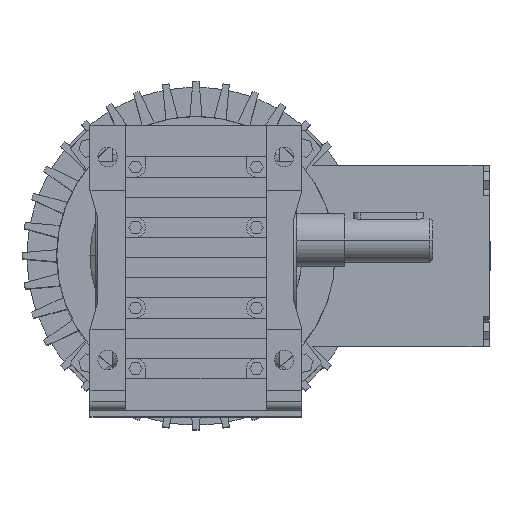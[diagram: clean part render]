
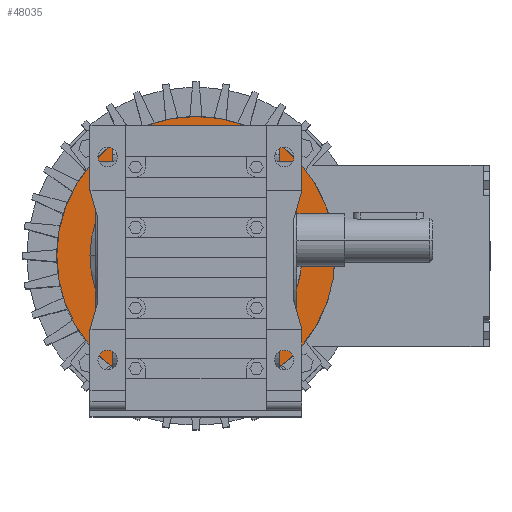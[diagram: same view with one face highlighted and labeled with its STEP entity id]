
A CAD part, top view. The second image highlights one B-rep face of the part: STEP entity #48035.
In plain terms, the highlighted planar face has unit normal (0, 0, 1).
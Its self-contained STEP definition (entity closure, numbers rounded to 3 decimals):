
#35632 = CYLINDRICAL_SURFACE('',#35633,78.8);
#35633 = AXIS2_PLACEMENT_3D('',#35634,#35635,#35636);
#35634 = CARTESIAN_POINT('',(0.,0.,0.));
#35635 = DIRECTION('',(0.,0.,1.));
#35636 = DIRECTION('',(1.,0.,0.));
#35664 = CYLINDRICAL_SURFACE('',#35665,78.8);
#35665 = AXIS2_PLACEMENT_3D('',#35666,#35667,#35668);
#35666 = CARTESIAN_POINT('',(0.,0.,0.));
#35667 = DIRECTION('',(0.,0.,1.));
#35668 = DIRECTION('',(1.,0.,0.));
#39775 = VERTEX_POINT('',#39776);
#39776 = CARTESIAN_POINT('',(-78.8,0.,-32.84));
#39795 = EDGE_CURVE('',#39796,#39775,#39798,.T.);
#39796 = VERTEX_POINT('',#39797);
#39797 = CARTESIAN_POINT('',(78.8,0.,-32.84));
#39798 = SURFACE_CURVE('',#39799,(#39804,#39810),.PCURVE_S1.);
#39799 = CIRCLE('',#39800,78.8);
#39800 = AXIS2_PLACEMENT_3D('',#39801,#39802,#39803);
#39801 = CARTESIAN_POINT('',(0.,0.,-32.84));
#39802 = DIRECTION('',(0.,0.,1.));
#39803 = DIRECTION('',(1.,0.,0.));
#39804 = PCURVE('',#35632,#39805);
#39805 = DEFINITIONAL_REPRESENTATION('',(#39806),#39809);
#39806 = B_SPLINE_CURVE_WITH_KNOTS('',1,(#39807,#39808),.UNSPECIFIED.,
  .F.,.F.,(2,2),(0.,3.142),.PIECEWISE_BEZIER_KNOTS.);
#39807 = CARTESIAN_POINT('',(0.,-32.84));
#39808 = CARTESIAN_POINT('',(3.142,-32.84));
#39809 = ( GEOMETRIC_REPRESENTATION_CONTEXT(2) 
PARAMETRIC_REPRESENTATION_CONTEXT() REPRESENTATION_CONTEXT('2D SPACE',''
  ) );
#39810 = PCURVE('',#39811,#39816);
#39811 = PLANE('',#39812);
#39812 = AXIS2_PLACEMENT_3D('',#39813,#39814,#39815);
#39813 = CARTESIAN_POINT('',(0.,41.863,-32.84));
#39814 = DIRECTION('',(0.,0.,-1.));
#39815 = DIRECTION('',(-1.,0.,0.));
#39816 = DEFINITIONAL_REPRESENTATION('',(#39817),#39825);
#39817 = ( BOUNDED_CURVE() B_SPLINE_CURVE(2,(#39818,#39819,#39820,#39821
    ,#39822,#39823,#39824),.UNSPECIFIED.,.F.,.F.) 
B_SPLINE_CURVE_WITH_KNOTS((1,2,2,2,2,1),(-2.094,0.,
    2.094,4.189,6.283,8.378),
.UNSPECIFIED.) CURVE() GEOMETRIC_REPRESENTATION_ITEM() 
RATIONAL_B_SPLINE_CURVE((1.,0.5,1.,0.5,1.,0.5,1.)) REPRESENTATION_ITEM(
  '') );
#39818 = CARTESIAN_POINT('',(-78.8,-41.863));
#39819 = CARTESIAN_POINT('',(-78.8,94.623));
#39820 = CARTESIAN_POINT('',(39.4,26.38));
#39821 = CARTESIAN_POINT('',(157.6,-41.863));
#39822 = CARTESIAN_POINT('',(39.4,-110.105));
#39823 = CARTESIAN_POINT('',(-78.8,-178.348));
#39824 = CARTESIAN_POINT('',(-78.8,-41.863));
#39825 = ( GEOMETRIC_REPRESENTATION_CONTEXT(2) 
PARAMETRIC_REPRESENTATION_CONTEXT() REPRESENTATION_CONTEXT('2D SPACE',''
  ) );
#43270 = EDGE_CURVE('',#39775,#39796,#43271,.T.);
#43271 = SURFACE_CURVE('',#43272,(#43277,#43283),.PCURVE_S1.);
#43272 = CIRCLE('',#43273,78.8);
#43273 = AXIS2_PLACEMENT_3D('',#43274,#43275,#43276);
#43274 = CARTESIAN_POINT('',(0.,0.,-32.84));
#43275 = DIRECTION('',(0.,0.,1.));
#43276 = DIRECTION('',(1.,0.,0.));
#43277 = PCURVE('',#35664,#43278);
#43278 = DEFINITIONAL_REPRESENTATION('',(#43279),#43282);
#43279 = B_SPLINE_CURVE_WITH_KNOTS('',1,(#43280,#43281),.UNSPECIFIED.,
  .F.,.F.,(2,2),(3.142,6.283),.PIECEWISE_BEZIER_KNOTS.);
#43280 = CARTESIAN_POINT('',(3.142,-32.84));
#43281 = CARTESIAN_POINT('',(6.283,-32.84));
#43282 = ( GEOMETRIC_REPRESENTATION_CONTEXT(2) 
PARAMETRIC_REPRESENTATION_CONTEXT() REPRESENTATION_CONTEXT('2D SPACE',''
  ) );
#43283 = PCURVE('',#39811,#43284);
#43284 = DEFINITIONAL_REPRESENTATION('',(#43285),#43293);
#43285 = ( BOUNDED_CURVE() B_SPLINE_CURVE(2,(#43286,#43287,#43288,#43289
    ,#43290,#43291,#43292),.UNSPECIFIED.,.F.,.F.) 
B_SPLINE_CURVE_WITH_KNOTS((1,2,2,2,2,1),(-2.094,0.,
    2.094,4.189,6.283,8.378),
.UNSPECIFIED.) CURVE() GEOMETRIC_REPRESENTATION_ITEM() 
RATIONAL_B_SPLINE_CURVE((1.,0.5,1.,0.5,1.,0.5,1.)) REPRESENTATION_ITEM(
  '') );
#43286 = CARTESIAN_POINT('',(-78.8,-41.863));
#43287 = CARTESIAN_POINT('',(-78.8,94.623));
#43288 = CARTESIAN_POINT('',(39.4,26.38));
#43289 = CARTESIAN_POINT('',(157.6,-41.863));
#43290 = CARTESIAN_POINT('',(39.4,-110.105));
#43291 = CARTESIAN_POINT('',(-78.8,-178.348));
#43292 = CARTESIAN_POINT('',(-78.8,-41.863));
#43293 = ( GEOMETRIC_REPRESENTATION_CONTEXT(2) 
PARAMETRIC_REPRESENTATION_CONTEXT() REPRESENTATION_CONTEXT('2D SPACE',''
  ) );
#48035 = ADVANCED_FACE('',(#48036,#48102),#39811,.F.);
#48036 = FACE_BOUND('',#48037,.T.);
#48037 = EDGE_LOOP('',(#48038,#48072));
#48038 = ORIENTED_EDGE('',*,*,#48039,.F.);
#48039 = EDGE_CURVE('',#48040,#48042,#48044,.T.);
#48040 = VERTEX_POINT('',#48041);
#48041 = CARTESIAN_POINT('',(41.863,0.,-32.84));
#48042 = VERTEX_POINT('',#48043);
#48043 = CARTESIAN_POINT('',(-41.863,0.,-32.84));
#48044 = SURFACE_CURVE('',#48045,(#48050,#48061),.PCURVE_S1.);
#48045 = CIRCLE('',#48046,41.863);
#48046 = AXIS2_PLACEMENT_3D('',#48047,#48048,#48049);
#48047 = CARTESIAN_POINT('',(0.,0.,-32.84));
#48048 = DIRECTION('',(0.,0.,1.));
#48049 = DIRECTION('',(1.,0.,0.));
#48050 = PCURVE('',#39811,#48051);
#48051 = DEFINITIONAL_REPRESENTATION('',(#48052),#48060);
#48052 = ( BOUNDED_CURVE() B_SPLINE_CURVE(2,(#48053,#48054,#48055,#48056
    ,#48057,#48058,#48059),.UNSPECIFIED.,.T.,.F.) 
B_SPLINE_CURVE_WITH_KNOTS((1,2,2,2,2,1),(-2.094,0.,
    2.094,4.189,6.283,8.378),
.UNSPECIFIED.) CURVE() GEOMETRIC_REPRESENTATION_ITEM() 
RATIONAL_B_SPLINE_CURVE((1.,0.5,1.,0.5,1.,0.5,1.)) REPRESENTATION_ITEM(
  '') );
#48053 = CARTESIAN_POINT('',(-41.863,-41.863));
#48054 = CARTESIAN_POINT('',(-41.863,30.645));
#48055 = CARTESIAN_POINT('',(20.931,-5.609));
#48056 = CARTESIAN_POINT('',(83.725,-41.863));
#48057 = CARTESIAN_POINT('',(20.931,-78.116));
#48058 = CARTESIAN_POINT('',(-41.863,-114.37));
#48059 = CARTESIAN_POINT('',(-41.863,-41.863));
#48060 = ( GEOMETRIC_REPRESENTATION_CONTEXT(2) 
PARAMETRIC_REPRESENTATION_CONTEXT() REPRESENTATION_CONTEXT('2D SPACE',''
  ) );
#48061 = PCURVE('',#48062,#48067);
#48062 = CYLINDRICAL_SURFACE('',#48063,41.863);
#48063 = AXIS2_PLACEMENT_3D('',#48064,#48065,#48066);
#48064 = CARTESIAN_POINT('',(0.,0.,0.));
#48065 = DIRECTION('',(0.,0.,1.));
#48066 = DIRECTION('',(1.,0.,0.));
#48067 = DEFINITIONAL_REPRESENTATION('',(#48068),#48071);
#48068 = B_SPLINE_CURVE_WITH_KNOTS('',1,(#48069,#48070),.UNSPECIFIED.,
  .F.,.F.,(2,2),(0.,3.142),.PIECEWISE_BEZIER_KNOTS.);
#48069 = CARTESIAN_POINT('',(0.,-32.84));
#48070 = CARTESIAN_POINT('',(3.142,-32.84));
#48071 = ( GEOMETRIC_REPRESENTATION_CONTEXT(2) 
PARAMETRIC_REPRESENTATION_CONTEXT() REPRESENTATION_CONTEXT('2D SPACE',''
  ) );
#48072 = ORIENTED_EDGE('',*,*,#48073,.F.);
#48073 = EDGE_CURVE('',#48042,#48040,#48074,.T.);
#48074 = SURFACE_CURVE('',#48075,(#48080,#48091),.PCURVE_S1.);
#48075 = CIRCLE('',#48076,41.863);
#48076 = AXIS2_PLACEMENT_3D('',#48077,#48078,#48079);
#48077 = CARTESIAN_POINT('',(0.,0.,-32.84));
#48078 = DIRECTION('',(0.,0.,1.));
#48079 = DIRECTION('',(1.,0.,0.));
#48080 = PCURVE('',#39811,#48081);
#48081 = DEFINITIONAL_REPRESENTATION('',(#48082),#48090);
#48082 = ( BOUNDED_CURVE() B_SPLINE_CURVE(2,(#48083,#48084,#48085,#48086
    ,#48087,#48088,#48089),.UNSPECIFIED.,.T.,.F.) 
B_SPLINE_CURVE_WITH_KNOTS((1,2,2,2,2,1),(-2.094,0.,
    2.094,4.189,6.283,8.378),
.UNSPECIFIED.) CURVE() GEOMETRIC_REPRESENTATION_ITEM() 
RATIONAL_B_SPLINE_CURVE((1.,0.5,1.,0.5,1.,0.5,1.)) REPRESENTATION_ITEM(
  '') );
#48083 = CARTESIAN_POINT('',(-41.863,-41.863));
#48084 = CARTESIAN_POINT('',(-41.863,30.645));
#48085 = CARTESIAN_POINT('',(20.931,-5.609));
#48086 = CARTESIAN_POINT('',(83.725,-41.863));
#48087 = CARTESIAN_POINT('',(20.931,-78.116));
#48088 = CARTESIAN_POINT('',(-41.863,-114.37));
#48089 = CARTESIAN_POINT('',(-41.863,-41.863));
#48090 = ( GEOMETRIC_REPRESENTATION_CONTEXT(2) 
PARAMETRIC_REPRESENTATION_CONTEXT() REPRESENTATION_CONTEXT('2D SPACE',''
  ) );
#48091 = PCURVE('',#48092,#48097);
#48092 = CYLINDRICAL_SURFACE('',#48093,41.863);
#48093 = AXIS2_PLACEMENT_3D('',#48094,#48095,#48096);
#48094 = CARTESIAN_POINT('',(0.,0.,0.));
#48095 = DIRECTION('',(0.,0.,1.));
#48096 = DIRECTION('',(1.,0.,0.));
#48097 = DEFINITIONAL_REPRESENTATION('',(#48098),#48101);
#48098 = B_SPLINE_CURVE_WITH_KNOTS('',1,(#48099,#48100),.UNSPECIFIED.,
  .F.,.F.,(2,2),(3.142,6.283),.PIECEWISE_BEZIER_KNOTS.);
#48099 = CARTESIAN_POINT('',(3.142,-32.84));
#48100 = CARTESIAN_POINT('',(6.283,-32.84));
#48101 = ( GEOMETRIC_REPRESENTATION_CONTEXT(2) 
PARAMETRIC_REPRESENTATION_CONTEXT() REPRESENTATION_CONTEXT('2D SPACE',''
  ) );
#48102 = FACE_BOUND('',#48103,.T.);
#48103 = EDGE_LOOP('',(#48104,#48105));
#48104 = ORIENTED_EDGE('',*,*,#39795,.T.);
#48105 = ORIENTED_EDGE('',*,*,#43270,.T.);
